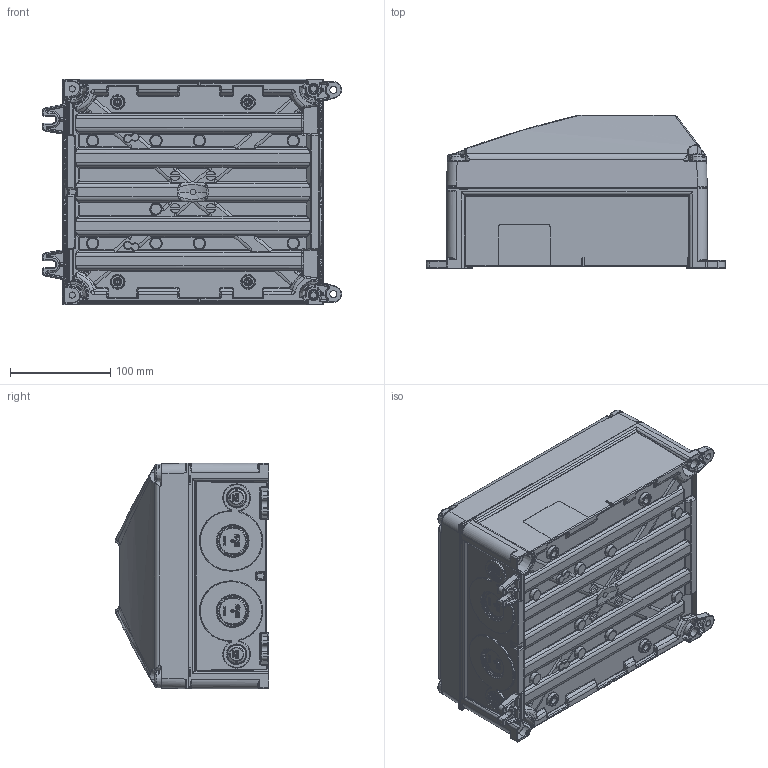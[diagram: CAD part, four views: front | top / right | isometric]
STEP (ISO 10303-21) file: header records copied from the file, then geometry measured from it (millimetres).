
FILE_DESCRIPTION((''),'2;1');
FILE_NAME('C00009149_SW0004','2026-01-23T10:38:43',('kremer'),('MENNEKES'),'CREO PARAMETRIC BY PTC INC, 2024153','CREO PARAMETRIC BY PTC INC, 2024153','');
FILE_SCHEMA(('AUTOMOTIVE_DESIGN { 1 0 10303 214 1 1 1 1 }'));
Products named in the file (1): C00009149_SW0004
Bounding box: 298.2 x 152.96 x 225.12 mm (x, y, z)
Volume: 7251643.7 mm3; surface area: 263495.1 mm2
Topology: 1 solids, 1 shells, 4963 faces, 12719 edges, 7881 vertices
Faces by surface type: plane 2199, cylinder 1099, bspline 963, torus 453, cone 132, sphere 109, extrusion 8
Entity records: 277276 total; most frequent: CARTESIAN_POINT 90271, ORIENTED_EDGE 25422, DIRECTION 20705, PRESENTATION_STYLE_ASSIGNMENT 17683, STYLED_ITEM 12720, CURVE_STYLE 12719, EDGE_CURVE 12711, VERTEX_POINT 7881
